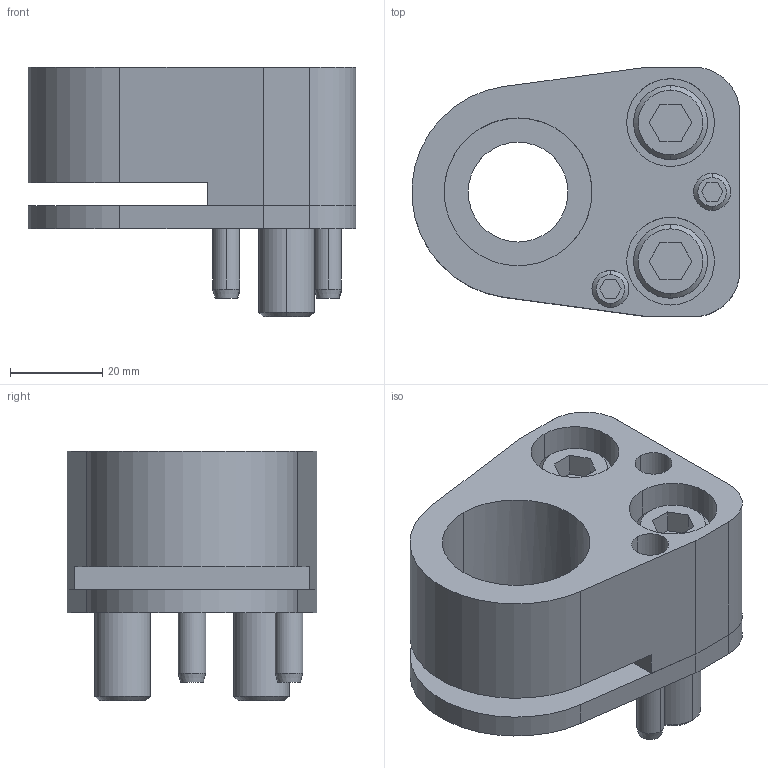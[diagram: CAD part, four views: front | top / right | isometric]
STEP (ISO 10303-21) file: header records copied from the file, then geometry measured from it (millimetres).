
FILE_DESCRIPTION(/* description */ (''),/* implementation_level */ '2;1');
FILE_NAME(/* name */ '3d_cp-fd32_03588_r00.stp',/* time_stamp */ '2011-01-10T14:16:28+09:00',/* author */ ('MISUMI'),/* organization */ (''),/* preprocessor_version */ 'ST-DEVELOPER v11',/* originating_system */ 'UGS - NX 5.0',/* authorisation */ '');
FILE_SCHEMA (('CONFIG_CONTROL_DESIGN'));
Length unit declared in the file: millimetre
Products named in the file (1): 3d_cp-fd32_03588_r00
Bounding box: 70.92 x 54 x 54 mm (x, y, z)
Volume: 82619.1 mm3; surface area: 31487.5 mm2
Topology: 8 solids, 8 shells, 154 faces, 352 edges, 227 vertices
Faces by surface type: plane 68, cylinder 60, cone 26
Entity records: 4514 total; most frequent: DIRECTION 802, CARTESIAN_POINT 791, ORIENTED_EDGE 704, EDGE_CURVE 352, AXIS2_PLACEMENT_3D 302, VERTEX_POINT 227, LINE 198, VECTOR 198
